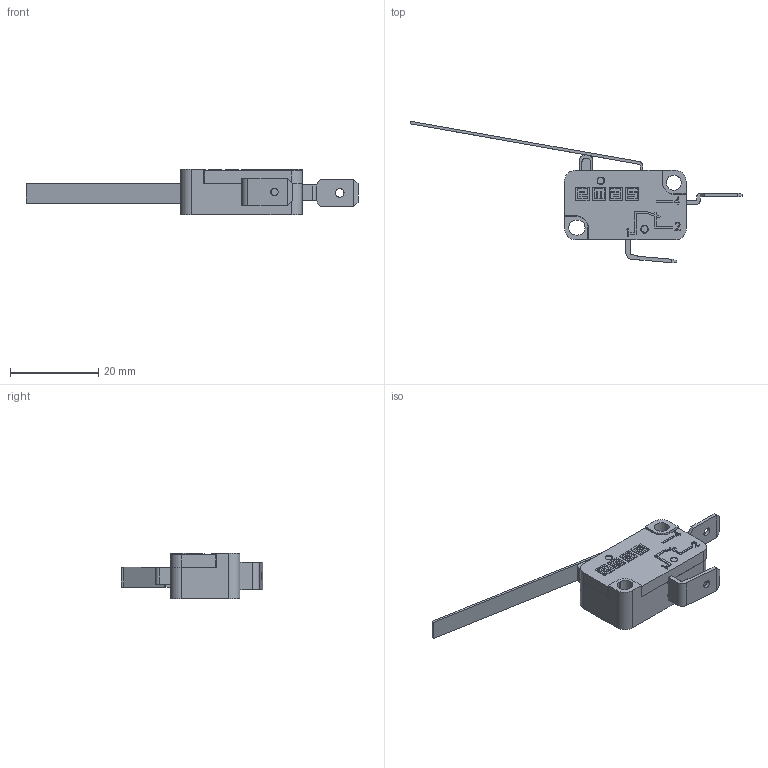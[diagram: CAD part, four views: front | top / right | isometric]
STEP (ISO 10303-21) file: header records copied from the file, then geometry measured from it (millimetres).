
FILE_DESCRIPTION((''),'2; 1');
FILE_NAME('','2026-03-27T16:19:30',(''),(''),'CST STEP Exporter V1.0','Unknown','');
FILE_SCHEMA(('CONFIG_CONTROL_DESIGN'));
Length unit declared in the file: metre
Assembly tree (9 placements, depth 2):
  (unnamed)
    (unnamed)
    (unnamed)
    (unnamed)
    (unnamed)
    (unnamed)
    (unnamed)
    (unnamed)
    (unnamed)
    (unnamed)
Bounding box: 75.44 x 32.15 x 10.4 mm (x, y, z)
Surface area: 7333.6 mm2 (no closed solid volume)
Topology: 0 solids, 9 shells, 254 faces, 970 edges, 730 vertices
Faces by surface type: plane 216, cylinder 32, extrusion 6
Full cylindrical faces by diameter (mm): 1.5 x2, 1.7 x1, 1.75 x2, 1.95 x1, 3.4 x1
Entity records: 12420 total; most frequent: CARTESIAN_POINT 2134, DIRECTION 1590, ORIENTED_EDGE 1550, EDGE_CURVE 961, VECTOR 810, LINE 804, VERTEX_POINT 728, AXIS2_PLACEMENT_3D 390
